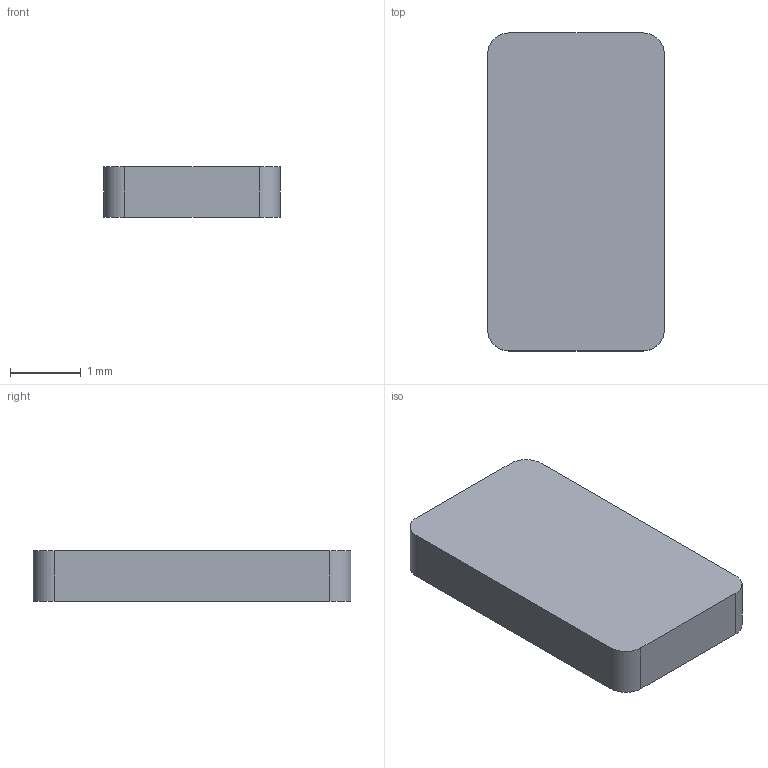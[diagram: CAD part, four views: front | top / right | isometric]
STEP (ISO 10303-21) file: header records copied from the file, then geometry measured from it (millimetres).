
FILE_DESCRIPTION(/* description */ (''),/* implementation_level */ '2;1');
FILE_NAME(/* name */ 'C27_R2_PCB_Rear_Preload_1.step',/* time_stamp */ '2026-09-10T17:48:41-07:00',/* author */ (''),/* organization */ (''),/* preprocessor_version */ 'ST-DEVELOPER v20.1',/* originating_system */ 'Autodesk Translation Framework v15.8.0.0',/* authorisation */ '');
FILE_SCHEMA (('AUTOMOTIVE_DESIGN { 1 0 10303 214 3 1 1 }'));
Length unit declared in the file: millimetre
Products named in the file (1): 2026-09-10-17-48-41-492
Bounding box: 2.5 x 4.5 x 0.71 mm (x, y, z)
Volume: 7.9 mm3; surface area: 31.9 mm2
Topology: 1 solids, 1 shells, 10 faces, 24 edges, 16 vertices
Faces by surface type: plane 6, cylinder 4
Entity records: 329 total; most frequent: DIRECTION 54, CARTESIAN_POINT 51, ORIENTED_EDGE 48, EDGE_CURVE 24, AXIS2_PLACEMENT_3D 19, LINE 16, VECTOR 16, VERTEX_POINT 16
